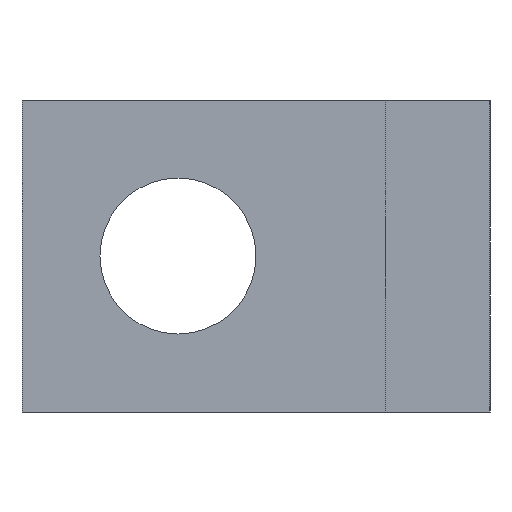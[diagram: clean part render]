
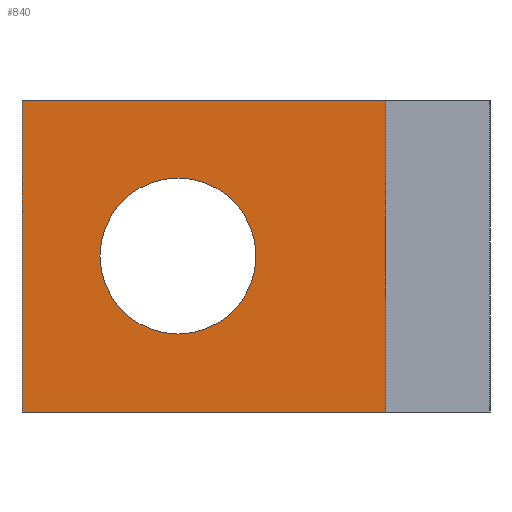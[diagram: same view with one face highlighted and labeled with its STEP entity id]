
A CAD part, left-side view. The second image highlights one B-rep face of the part: STEP entity #840.
In plain terms, the highlighted planar face has unit normal (-1, 0, 0).
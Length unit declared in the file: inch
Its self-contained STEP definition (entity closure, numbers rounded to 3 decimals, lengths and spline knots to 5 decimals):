
#8 = FACE_BOUND ( 'NONE', #431, .T. ) ;
#14 = VERTEX_POINT ( 'NONE', #745 ) ;
#51 = ORIENTED_EDGE ( 'NONE', *, *, #661, .T. ) ;
#70 = ORIENTED_EDGE ( 'NONE', *, *, #475, .T. ) ;
#73 = CARTESIAN_POINT ( 'NONE',  ( -0.875, 1.125, -0.375 ) ) ;
#86 = DIRECTION ( 'NONE',  ( 1., 0., 0. ) ) ;
#112 = AXIS2_PLACEMENT_3D ( 'NONE', #571, #86, #131 ) ;
#117 = EDGE_CURVE ( 'NONE', #262, #171, #712, .T. ) ;
#131 = DIRECTION ( 'NONE',  ( 0., 0., -1. ) ) ;
#171 = VERTEX_POINT ( 'NONE', #196 ) ;
#181 = ORIENTED_EDGE ( 'NONE', *, *, #665, .F. ) ;
#196 = CARTESIAN_POINT ( 'NONE',  ( -0.875, 0.75, 0.1875 ) ) ;
#203 = DIRECTION ( 'NONE',  ( 0., 0., -1. ) ) ;
#219 = EDGE_LOOP ( 'NONE', ( #51, #181, #786, #651 ) ) ;
#220 = FACE_OUTER_BOUND ( 'NONE', #219, .T. ) ;
#238 = PLANE ( 'NONE',  #743 ) ;
#244 = DIRECTION ( 'NONE',  ( 1., 0., 0. ) ) ;
#249 = DIRECTION ( 'NONE',  ( 0., 0., -1. ) ) ;
#257 = CARTESIAN_POINT ( 'NONE',  ( -0.875, 1.125, 0.375 ) ) ;
#262 = VERTEX_POINT ( 'NONE', #861 ) ;
#307 = DIRECTION ( 'NONE',  ( 0., -1., 0. ) ) ;
#314 = EDGE_CURVE ( 'NONE', #548, #529, #772, .T. ) ;
#331 = VECTOR ( 'NONE', #541, 39.37008 ) ;
#335 = VECTOR ( 'NONE', #307, 39.37008 ) ;
#431 = EDGE_LOOP ( 'NONE', ( #499, #70 ) ) ;
#455 = DIRECTION ( 'NONE',  ( 0., 0., 1. ) ) ;
#464 = DIRECTION ( 'NONE',  ( 1., 0., 0. ) ) ;
#475 = EDGE_CURVE ( 'NONE', #171, #262, #818, .T. ) ;
#484 = CARTESIAN_POINT ( 'NONE',  ( -0.875, 1.125, -0.375 ) ) ;
#495 = CARTESIAN_POINT ( 'NONE',  ( -0.875, 1.125, -0.375 ) ) ;
#497 = CARTESIAN_POINT ( 'NONE',  ( -0.875, 0.25, 0.375 ) ) ;
#499 = ORIENTED_EDGE ( 'NONE', *, *, #117, .T. ) ;
#529 = VERTEX_POINT ( 'NONE', #257 ) ;
#541 = DIRECTION ( 'NONE',  ( 0., 0., 1. ) ) ;
#548 = VERTEX_POINT ( 'NONE', #760 ) ;
#571 = CARTESIAN_POINT ( 'NONE',  ( -0.875, 0.75, 0. ) ) ;
#590 = VERTEX_POINT ( 'NONE', #497 ) ;
#592 = CARTESIAN_POINT ( 'NONE',  ( -0.875, 0.75, 0. ) ) ;
#596 = CARTESIAN_POINT ( 'NONE',  ( -0.875, 1.125, 0.375 ) ) ;
#617 = LINE ( 'NONE', #688, #672 ) ;
#651 = ORIENTED_EDGE ( 'NONE', *, *, #732, .T. ) ;
#661 = EDGE_CURVE ( 'NONE', #14, #590, #617, .T. ) ;
#665 = EDGE_CURVE ( 'NONE', #529, #590, #882, .T. ) ;
#672 = VECTOR ( 'NONE', #455, 39.37008 ) ;
#688 = CARTESIAN_POINT ( 'NONE',  ( -0.875, 0.25, -0.375 ) ) ;
#712 = CIRCLE ( 'NONE', #817, 0.1875 ) ;
#732 = EDGE_CURVE ( 'NONE', #548, #14, #759, .T. ) ;
#743 = AXIS2_PLACEMENT_3D ( 'NONE', #73, #244, #249 ) ;
#745 = CARTESIAN_POINT ( 'NONE',  ( -0.875, 0.25, -0.375 ) ) ;
#759 = LINE ( 'NONE', #495, #335 ) ;
#760 = CARTESIAN_POINT ( 'NONE',  ( -0.875, 1.125, -0.375 ) ) ;
#769 = VECTOR ( 'NONE', #880, 39.37008 ) ;
#772 = LINE ( 'NONE', #484, #331 ) ;
#786 = ORIENTED_EDGE ( 'NONE', *, *, #314, .F. ) ;
#817 = AXIS2_PLACEMENT_3D ( 'NONE', #592, #464, #203 ) ;
#818 = CIRCLE ( 'NONE', #112, 0.1875 ) ;
#840 = ADVANCED_FACE ( 'NONE', ( #8, #220 ), #238, .F. ) ;
#861 = CARTESIAN_POINT ( 'NONE',  ( -0.875, 0.75, -0.1875 ) ) ;
#880 = DIRECTION ( 'NONE',  ( 0., -1., 0. ) ) ;
#882 = LINE ( 'NONE', #596, #769 ) ;
